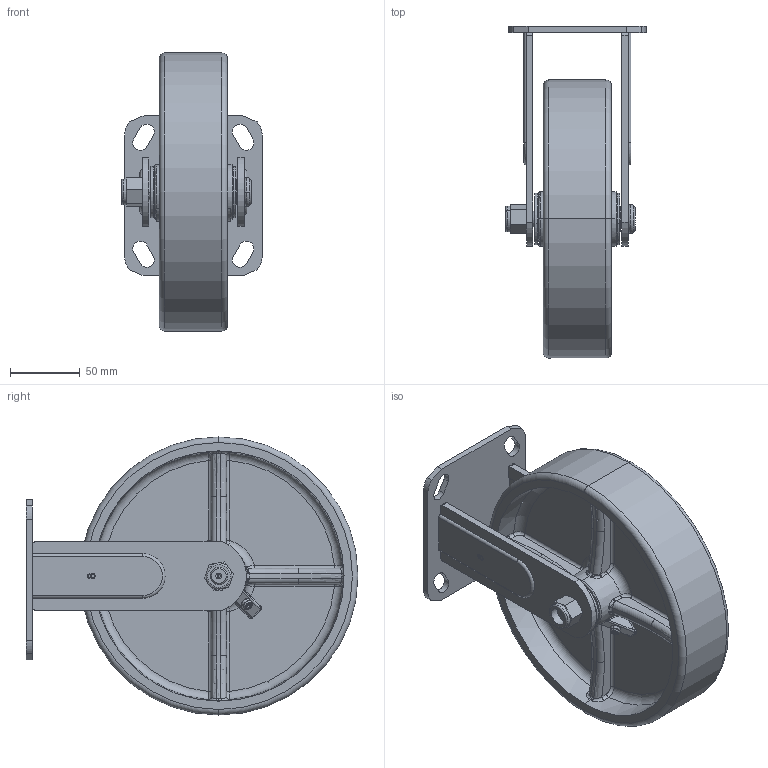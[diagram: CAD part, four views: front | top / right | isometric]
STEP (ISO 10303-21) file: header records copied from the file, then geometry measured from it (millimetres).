
FILE_DESCRIPTION (( 'STEP AP203' ), '1' );
FILE_NAME ('4111208001002-7.STEP', '2025-07-23T06:14:31', ( '' ), ( '' ), 'SwSTEP 2.0', 'SolidWorks 2019', '' );
FILE_SCHEMA (( 'CONFIG_CONTROL_DESIGN' ));
Length unit declared in the file: millimetre
Products named in the file (1): 4111208001002-7
Bounding box: 101 x 238.7 x 200 mm (x, y, z)
Volume: 667240.1 mm3; surface area: 194331.2 mm2
Topology: 5 solids, 6 shells, 531 faces, 1322 edges, 815 vertices
Faces by surface type: bspline 156, cylinder 131, plane 127, torus 78, cone 37, sphere 2
Entity records: 24249 total; most frequent: CARTESIAN_POINT 12568, ORIENTED_EDGE 2620, DIRECTION 2215, EDGE_CURVE 1310, AXIS2_PLACEMENT_3D 936, VERTEX_POINT 815, EDGE_LOOP 571, CIRCLE 560
